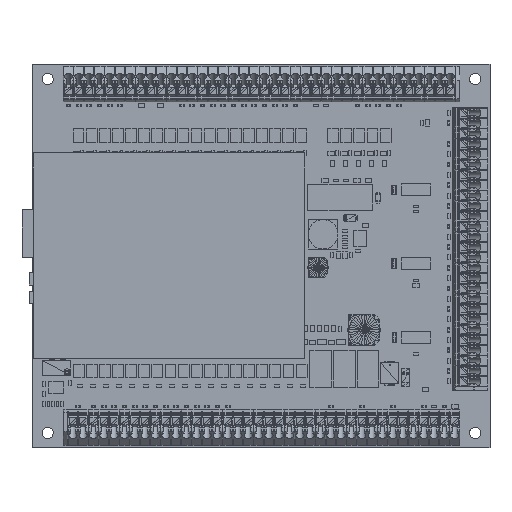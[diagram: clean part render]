
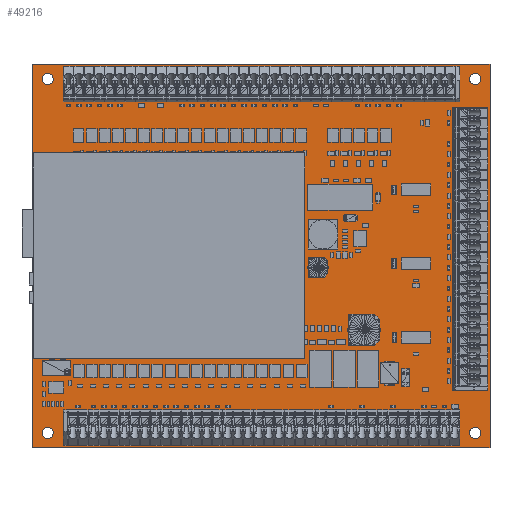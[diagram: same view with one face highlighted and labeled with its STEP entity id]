
A CAD part, top view. The second image highlights one B-rep face of the part: STEP entity #49216.
In plain terms, the highlighted planar face has unit normal (0, 0, 1).
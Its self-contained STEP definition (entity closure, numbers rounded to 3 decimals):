
#48943 = VERTEX_POINT('',#48944);
#48944 = CARTESIAN_POINT('',(0.,0.,0.));
#48950 = EDGE_CURVE('',#48943,#48951,#48953,.T.);
#48951 = VERTEX_POINT('',#48952);
#48952 = CARTESIAN_POINT('',(155.,0.,0.));
#48953 = LINE('',#48954,#48955);
#48954 = CARTESIAN_POINT('',(0.,0.,0.));
#48955 = VECTOR('',#48956,1.);
#48956 = DIRECTION('',(1.,0.,0.));
#48981 = EDGE_CURVE('',#48951,#48982,#48984,.T.);
#48982 = VERTEX_POINT('',#48983);
#48983 = CARTESIAN_POINT('',(155.,130.,0.));
#48984 = LINE('',#48985,#48986);
#48985 = CARTESIAN_POINT('',(155.,0.,0.));
#48986 = VECTOR('',#48987,1.);
#48987 = DIRECTION('',(0.,1.,0.));
#49012 = EDGE_CURVE('',#48982,#49013,#49015,.T.);
#49013 = VERTEX_POINT('',#49014);
#49014 = CARTESIAN_POINT('',(0.,130.,0.));
#49015 = LINE('',#49016,#49017);
#49016 = CARTESIAN_POINT('',(155.,130.,0.));
#49017 = VECTOR('',#49018,1.);
#49018 = DIRECTION('',(-1.,0.,0.));
#49043 = EDGE_CURVE('',#49013,#48943,#49044,.T.);
#49044 = LINE('',#49045,#49046);
#49045 = CARTESIAN_POINT('',(0.,130.,0.));
#49046 = VECTOR('',#49047,1.);
#49047 = DIRECTION('',(0.,-1.,0.));
#49067 = VERTEX_POINT('',#49068);
#49068 = CARTESIAN_POINT('',(6.9,5.,0.));
#49074 = EDGE_CURVE('',#49067,#49067,#49075,.T.);
#49075 = CIRCLE('',#49076,1.9);
#49076 = AXIS2_PLACEMENT_3D('',#49077,#49078,#49079);
#49077 = CARTESIAN_POINT('',(5.,5.,0.));
#49078 = DIRECTION('',(0.,0.,1.));
#49079 = DIRECTION('',(1.,0.,0.));
#49100 = VERTEX_POINT('',#49101);
#49101 = CARTESIAN_POINT('',(6.9,125.,0.));
#49107 = EDGE_CURVE('',#49100,#49100,#49108,.T.);
#49108 = CIRCLE('',#49109,1.9);
#49109 = AXIS2_PLACEMENT_3D('',#49110,#49111,#49112);
#49110 = CARTESIAN_POINT('',(5.,125.,0.));
#49111 = DIRECTION('',(0.,0.,1.));
#49112 = DIRECTION('',(1.,0.,0.));
#49133 = VERTEX_POINT('',#49134);
#49134 = CARTESIAN_POINT('',(151.9,5.,0.));
#49140 = EDGE_CURVE('',#49133,#49133,#49141,.T.);
#49141 = CIRCLE('',#49142,1.9);
#49142 = AXIS2_PLACEMENT_3D('',#49143,#49144,#49145);
#49143 = CARTESIAN_POINT('',(150.,5.,0.));
#49144 = DIRECTION('',(0.,0.,1.));
#49145 = DIRECTION('',(1.,0.,0.));
#49166 = VERTEX_POINT('',#49167);
#49167 = CARTESIAN_POINT('',(151.9,125.,0.));
#49173 = EDGE_CURVE('',#49166,#49166,#49174,.T.);
#49174 = CIRCLE('',#49175,1.9);
#49175 = AXIS2_PLACEMENT_3D('',#49176,#49177,#49178);
#49176 = CARTESIAN_POINT('',(150.,125.,0.));
#49177 = DIRECTION('',(0.,0.,1.));
#49178 = DIRECTION('',(1.,0.,0.));
#49216 = ADVANCED_FACE('',(#49217,#49223,#49226,#49229,#49232),#49235,
  .F.);
#49217 = FACE_BOUND('',#49218,.T.);
#49218 = EDGE_LOOP('',(#49219,#49220,#49221,#49222));
#49219 = ORIENTED_EDGE('',*,*,#48950,.T.);
#49220 = ORIENTED_EDGE('',*,*,#48981,.T.);
#49221 = ORIENTED_EDGE('',*,*,#49012,.T.);
#49222 = ORIENTED_EDGE('',*,*,#49043,.T.);
#49223 = FACE_BOUND('',#49224,.F.);
#49224 = EDGE_LOOP('',(#49225));
#49225 = ORIENTED_EDGE('',*,*,#49074,.T.);
#49226 = FACE_BOUND('',#49227,.F.);
#49227 = EDGE_LOOP('',(#49228));
#49228 = ORIENTED_EDGE('',*,*,#49107,.T.);
#49229 = FACE_BOUND('',#49230,.F.);
#49230 = EDGE_LOOP('',(#49231));
#49231 = ORIENTED_EDGE('',*,*,#49140,.T.);
#49232 = FACE_BOUND('',#49233,.F.);
#49233 = EDGE_LOOP('',(#49234));
#49234 = ORIENTED_EDGE('',*,*,#49173,.T.);
#49235 = PLANE('',#49236);
#49236 = AXIS2_PLACEMENT_3D('',#49237,#49238,#49239);
#49237 = CARTESIAN_POINT('',(0.,0.,0.));
#49238 = DIRECTION('',(0.,0.,-1.));
#49239 = DIRECTION('',(-1.,0.,0.));
